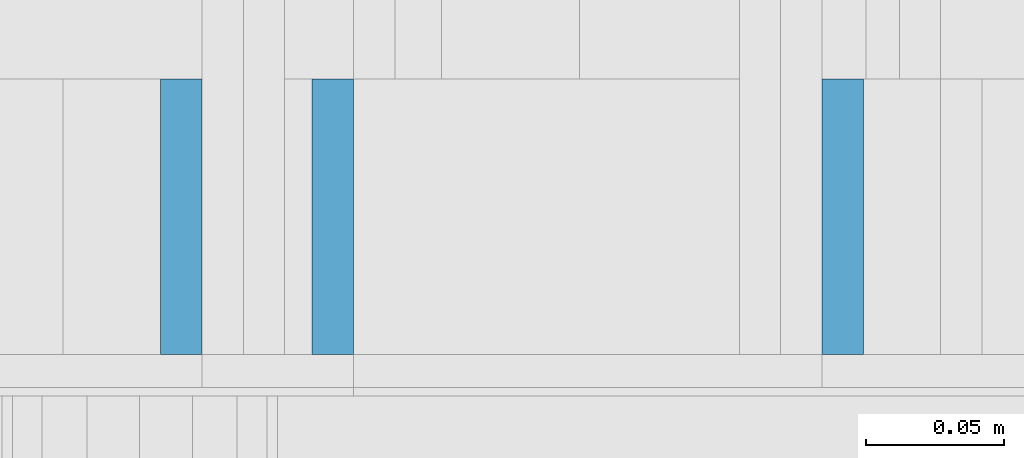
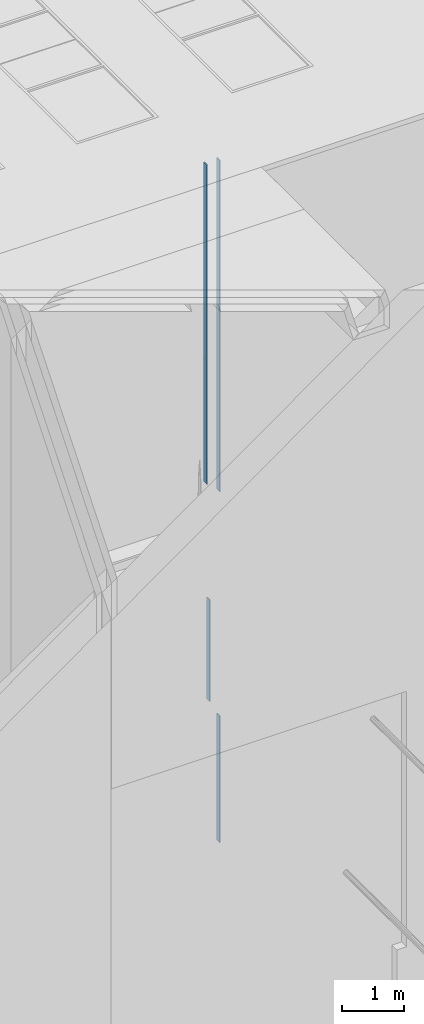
# One storey, part 46 of 583: 7 building element parts, 2 elements without a shape of their own.
"""IFC2X3 building model written with IfcOpenShell, lengths in metres."""

import ifcopenshell
import ifcopenshell.guid

model = None  # the IFC model being written
_history = None  # IfcOwnerHistory: only IFC2X3 demands one
_inside = {}  # id of a spatial element -> (the spatial element, [elements in it])
_under = {}  # id of a project, library or spatial element -> (it, [spatial elements below it])
_declared = {}  # id of a project -> (the project, [libraries it declares])
_typed = {}  # id of a type object -> (the type object, [elements of that type])
_made_of = {}  # id of a material, layer set ... -> (it, [elements and type objects made of it])


def new_model(schema):
    """Start an empty IFC model of exactly this schema.

    Asked for "IFC4X3", IfcOpenShell would pick the latest addendum, in which some entities
    have other attributes; the version numbers below select the first issue.
    IFC2X3 requires an IfcOwnerHistory on every rooted entity: one is made here for all.
    """
    global model, _history
    if schema == "IFC4X3":
        model = ifcopenshell.file(schema_version=(4, 3, 0, 0))
    else:
        model = ifcopenshell.file(schema=schema)
    _inside.clear()
    _under.clear()
    _declared.clear()
    _typed.clear()
    _made_of.clear()
    _history = None
    if model.schema == "IFC2X3":
        org = make("IfcOrganization", Name="unknown")
        user = make(
            "IfcPersonAndOrganization",
            ThePerson=make("IfcPerson", FamilyName="unknown"),
            TheOrganization=org,
        )
        app = make(
            "IfcApplication",
            ApplicationDeveloper=org,
            Version="unknown",
            ApplicationFullName="unknown",
            ApplicationIdentifier="unknown",
        )
        _history = make(
            "IfcOwnerHistory",
            OwningUser=user,
            OwningApplication=app,
            ChangeAction="ADDED",
            CreationDate=0,
        )
    return model


def make(cls, **values):
    """One entity of the class cls with the attributes given. An attribute that is None is left unset."""
    return model.create_entity(
        cls, **{name: value for name, value in values.items() if value is not None}
    )


def entity(cls, *values):
    """Any entity or typed value of the class cls, its attributes in the order of the schema. None: left unset."""
    e = model.create_entity(cls)
    for i, value in enumerate(values):
        if value is not None:
            e[i] = value
    return e


def rooted(cls, **values):
    """An entity with a GlobalId (a new one), such as an element, a storey or a relation."""
    return make(cls, GlobalId=ifcopenshell.guid.new(), OwnerHistory=_history, **values)


def si_unit(unit_type, name, prefix=None):
    """IfcSIUnit, for example si_unit("LENGTHUNIT", "METRE", prefix="MILLI")."""
    return make("IfcSIUnit", UnitType=unit_type, Prefix=prefix, Name=name)


def converted_unit(unit_type, name, factor, base, dimensions=None, offset=None):
    """IfcConversionBasedUnit, such as the inch: factor (a typed value) times the base unit."""
    return make(
        "IfcConversionBasedUnit"
        if offset is None
        else "IfcConversionBasedUnitWithOffset",
        ConversionOffset=offset,
        Dimensions=None
        if dimensions is None
        else entity("IfcDimensionalExponents", *dimensions),
        UnitType=unit_type,
        Name=name,
        ConversionFactor=make(
            "IfcMeasureWithUnit", ValueComponent=factor, UnitComponent=base
        ),
    )


def derived_unit(unit_type, elements):
    """IfcDerivedUnit: a product of units, each with its exponent."""
    return make(
        "IfcDerivedUnit",
        Elements=[
            make("IfcDerivedUnitElement", Unit=unit, Exponent=power)
            for unit, power in elements
        ],
        UnitType=unit_type,
    )


def money_unit(currency):
    """IfcMonetaryUnit."""
    return make("IfcMonetaryUnit", Currency=currency)


def assignment(units):
    """IfcUnitAssignment: the units of a project."""
    return None if units is None else make("IfcUnitAssignment", Units=units)


def point(xyz):
    """IfcCartesianPoint."""
    return None if xyz is None else make("IfcCartesianPoint", Coordinates=xyz)


def direction(xyz):
    """IfcDirection."""
    return None if xyz is None else make("IfcDirection", DirectionRatios=xyz)


def frame(location, z_axis=None, x_axis=None):
    """IfcAxis2Placement3D, a coordinate frame: its origin and axes. An axis left out is left unset."""
    return make(
        "IfcAxis2Placement3D",
        Location=point(location),
        Axis=direction(z_axis),
        RefDirection=direction(x_axis),
    )


def frame_2d(location, x_axis=None):
    """IfcAxis2Placement2D, a coordinate frame in the plane: its origin and x axis."""
    return make(
        "IfcAxis2Placement2D", Location=point(location), RefDirection=direction(x_axis)
    )


def origin_with_axes():
    """The frame at (0, 0, 0) with the z axis (0, 0, 1) and the x axis (1, 0, 0) written out."""
    return frame((0.0, 0.0, 0.0), z_axis=(0.0, 0.0, 1.0), x_axis=(1.0, 0.0, 0.0))


def place(relative_to, where):
    """IfcLocalPlacement: puts the frame where relative to a parent placement (None: the world)."""
    return make(
        "IfcLocalPlacement", PlacementRelTo=relative_to, RelativePlacement=where
    )


def context(
    kind, dimensions, precision=None, world=None, true_north=None, identifier=None
):
    """IfcGeometricRepresentationContext, for example the 3D "Model" context."""
    return make(
        "IfcGeometricRepresentationContext",
        ContextIdentifier=identifier,
        ContextType=kind,
        CoordinateSpaceDimension=dimensions,
        Precision=precision,
        WorldCoordinateSystem=world,
        TrueNorth=true_north,
    )


def subcontext(parent, identifier, kind, view, scale=None):
    """IfcGeometricRepresentationSubContext, for example "Body" below "Model"."""
    return make(
        "IfcGeometricRepresentationSubContext",
        ContextIdentifier=identifier,
        ContextType=kind,
        ParentContext=parent,
        TargetScale=scale,
        TargetView=view,
    )


def project(units=None, contexts=None):
    """IfcProject with its units and contexts."""
    return rooted(
        "IfcProject",
        Name="project",
        RepresentationContexts=contexts,
        UnitsInContext=assignment(units),
    )


def spatial(cls, under=None, at=None, **own):
    """A site, building, storey or space (cls), placed at a placement, below another one or the project."""
    s = rooted(cls, ObjectPlacement=at, **own)
    if under is not None:
        _under.setdefault(under.id(), (under, []))[1].append(s)
    return s


def polyline(points):
    """IfcPolyline through the points."""
    return make("IfcPolyline", Points=[point(p) for p in points])


def profile(cls, at=None, kind="AREA", **sizes):
    """A parametric profile (cls). Its sizes go by their IFC names, for example OverallWidth=200.0."""
    return make(cls, ProfileType=kind, Position=at, **sizes)


def rectangle(**sizes):
    """IfcRectangleProfileDef."""
    return profile("IfcRectangleProfileDef", **sizes)


def outline(outer, holes=None, kind="AREA"):
    """IfcArbitraryClosedProfileDef: a profile drawn as a closed curve; with holes, ...WithVoids."""
    if holes is None:
        return make("IfcArbitraryClosedProfileDef", ProfileType=kind, OuterCurve=outer)
    return make(
        "IfcArbitraryProfileDefWithVoids",
        ProfileType=kind,
        OuterCurve=outer,
        InnerCurves=holes,
    )


def extrude(swept, where, along, depth):
    """IfcExtrudedAreaSolid: the profile swept, set in the frame where, extruded along a direction by depth."""
    return make(
        "IfcExtrudedAreaSolid",
        SweptArea=swept,
        Position=where,
        ExtrudedDirection=direction(along),
        Depth=depth,
    )


def shape(context_of_items, identifier, shape_type, items):
    """IfcShapeRepresentation: the items that make up one representation, for example the "Body"."""
    return make(
        "IfcShapeRepresentation",
        ContextOfItems=context_of_items,
        RepresentationIdentifier=identifier,
        RepresentationType=shape_type,
        Items=items,
    )


def material(Name=None, Category=None):
    """IfcMaterial."""
    return make("IfcMaterial", Name=Name, Category=Category)


def made_of(thing, what):
    """Note that an element or type object is made of a material, layer set ...; save() writes the relation."""
    if what is not None:
        _made_of.setdefault(what.id(), (what, []))[1].append(thing)
    return thing


def type_object(cls, material=None, **own):
    """A type object (cls), such as IfcWallType, which elements share."""
    return made_of(rooted(cls, **own), material)


def element(
    cls,
    number,
    at=None,
    inside=None,
    cuts=None,
    type_object=None,
    material=None,
    context=None,
    identifier="Body",
    shape_type=None,
    held_by="IfcProductDefinitionShape",
    body=None,
    shapes=None,
    **own,
):
    """One element of the class cls, such as IfcWall. Its Tag is "e" and its number.

    at: its placement. inside: the storey or other place that contains it. cuts: it is an
    opening in that element (IfcRelVoidsElement). A single representation is given by context,
    identifier, shape_type and body (its items); several are given by shapes. held_by: the class
    of the entity that holds the representations. save() writes the other relations.
    """
    e = rooted(cls, Tag="e%d" % number, ObjectPlacement=at, **own)
    if body is not None:
        shapes = [shape(context, identifier, shape_type, body)]
    if shapes is not None:
        e.Representation = make(held_by, Representations=shapes)
    if inside is not None:
        _inside.setdefault(inside.id(), (inside, []))[1].append(e)
    if cuts is not None:
        rooted(
            "IfcRelVoidsElement", RelatingBuildingElement=cuts, RelatedOpeningElement=e
        )
    if type_object is not None:
        _typed.setdefault(type_object.id(), (type_object, []))[1].append(e)
    return made_of(e, material)


def aggregate(whole, parts):
    """IfcRelAggregates: a whole, such as a stair, and the parts it consists of."""
    return rooted("IfcRelAggregates", RelatingObject=whole, RelatedObjects=parts)


def save(model, path):
    """Write the relations noted so far, then the file.

    IfcRelAggregates (storeys below a building ...), IfcRelContainedInSpatialStructure (elements
    in a storey), IfcRelDefinesByType, IfcRelAssociatesMaterial and IfcRelDeclares: one each for
    every whole, place, type object, material and project.
    """
    for whole, parts in _under.values():
        aggregate(whole, parts)
    for where, things in _inside.values():
        rooted(
            "IfcRelContainedInSpatialStructure",
            RelatedElements=things,
            RelatingStructure=where,
        )
    for kind, things in _typed.values():
        rooted("IfcRelDefinesByType", RelatedObjects=things, RelatingType=kind)
    for what, things in _made_of.values():
        rooted("IfcRelAssociatesMaterial", RelatedObjects=things, RelatingMaterial=what)
    for by, libraries in _declared.values():
        rooted("IfcRelDeclares", RelatingContext=by, RelatedDefinitions=libraries)
    model.write(path)


model = new_model("IFC2X3")

# Units and contexts
model_context = context("Model", 3, precision=1e-05, world=origin_with_axes(), true_north=direction((0.0, 1.0)))
body_context = subcontext(model_context, "Body", "Model", "MODEL_VIEW", scale=1.0)
ifc_project = project(units=[si_unit("LENGTHUNIT", "METRE"), si_unit("AREAUNIT", "SQUARE_METRE"), si_unit("VOLUMEUNIT", "CUBIC_METRE"), si_unit("ABSORBEDDOSEUNIT", "GRAY"), si_unit("AMOUNTOFSUBSTANCEUNIT", "MOLE"), si_unit("DOSEEQUIVALENTUNIT", "SIEVERT"), si_unit("ELECTRICCAPACITANCEUNIT", "FARAD"), si_unit("ELECTRICCHARGEUNIT", "COULOMB"), si_unit("ELECTRICCONDUCTANCEUNIT", "SIEMENS"), si_unit("ELECTRICCURRENTUNIT", "AMPERE"), si_unit("ELECTRICRESISTANCEUNIT", "OHM"), si_unit("ELECTRICVOLTAGEUNIT", "VOLT"), si_unit("ENERGYUNIT", "JOULE"), si_unit("FORCEUNIT", "NEWTON"), si_unit("FREQUENCYUNIT", "HERTZ"), si_unit("ILLUMINANCEUNIT", "LUX"), si_unit("INDUCTANCEUNIT", "HENRY"), si_unit("LUMINOUSFLUXUNIT", "LUMEN"), si_unit("LUMINOUSINTENSITYUNIT", "CANDELA"), si_unit("MAGNETICFLUXDENSITYUNIT", "TESLA"), si_unit("MAGNETICFLUXUNIT", "WEBER"), si_unit("MASSUNIT", "GRAM"), converted_unit("PLANEANGLEUNIT", "degree", entity("IfcReal", 0.0174532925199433), si_unit("PLANEANGLEUNIT", "RADIAN"), dimensions=[0, 0, 0, 0, 0, 0, 0]), si_unit("POWERUNIT", "WATT"), si_unit("PRESSUREUNIT", "PASCAL"), si_unit("RADIOACTIVITYUNIT", "BECQUEREL"), si_unit("SOLIDANGLEUNIT", "STERADIAN"), si_unit("THERMODYNAMICTEMPERATUREUNIT", "KELVIN"), si_unit("TIMEUNIT", "SECOND"), derived_unit("ACCELERATIONUNIT", [(si_unit("LENGTHUNIT", "METRE"), 1), (si_unit("TIMEUNIT", "SECOND"), -2)]), derived_unit("ANGULARVELOCITYUNIT", [(converted_unit("PLANEANGLEUNIT", "degree", entity("IfcReal", 0.0174532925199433), si_unit("PLANEANGLEUNIT", "RADIAN"), dimensions=[0, 0, 0, 0, 0, 0, 0]), 1), (si_unit("TIMEUNIT", "SECOND"), -1)]), derived_unit("CURVATUREUNIT", [(converted_unit("PLANEANGLEUNIT", "degree", entity("IfcReal", 0.0174532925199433), si_unit("PLANEANGLEUNIT", "RADIAN"), dimensions=[0, 0, 0, 0, 0, 0, 0]), 1), (si_unit("LENGTHUNIT", "METRE"), -1)]), derived_unit("DYNAMICVISCOSITYUNIT", [(si_unit("PRESSUREUNIT", "PASCAL"), 1), (si_unit("TIMEUNIT", "SECOND"), 1)]), derived_unit("HEATFLUXDENSITYUNIT", [(si_unit("POWERUNIT", "WATT"), 1), (si_unit("LENGTHUNIT", "METRE"), -2)]), derived_unit("HEATINGVALUEUNIT", [(si_unit("ENERGYUNIT", "JOULE"), 1), (si_unit("MASSUNIT", "GRAM"), -1)]), derived_unit("INTEGERCOUNTRATEUNIT", [(si_unit("TIMEUNIT", "SECOND"), -1)]), derived_unit("IONCONCENTRATIONUNIT", [(si_unit("MASSUNIT", "GRAM"), 1), (si_unit("VOLUMEUNIT", "CUBIC_METRE"), -1)]), derived_unit("ISOTHERMALMOISTURECAPACITYUNIT", [(si_unit("VOLUMEUNIT", "CUBIC_METRE"), 1), (si_unit("MASSUNIT", "GRAM"), -1)]), derived_unit("KINEMATICVISCOSITYUNIT", [(si_unit("AREAUNIT", "SQUARE_METRE"), 1), (si_unit("TIMEUNIT", "SECOND"), -1)]), derived_unit("LINEARFORCEUNIT", [(si_unit("FORCEUNIT", "NEWTON"), 1), (si_unit("LENGTHUNIT", "METRE"), -1)]), derived_unit("LINEARMOMENTUNIT", [(si_unit("FORCEUNIT", "NEWTON"), 1), (si_unit("LENGTHUNIT", "METRE"), -1)]), derived_unit("LINEARSTIFFNESSUNIT", [(si_unit("FORCEUNIT", "NEWTON"), 1), (si_unit("LENGTHUNIT", "METRE"), -1)]), derived_unit("LINEARVELOCITYUNIT", [(si_unit("LENGTHUNIT", "METRE"), 1), (si_unit("TIMEUNIT", "SECOND"), -1)]), derived_unit("LUMINOUSINTENSITYDISTRIBUTIONUNIT", [(si_unit("LUMINOUSINTENSITYUNIT", "CANDELA"), 1), (si_unit("LUMINOUSFLUXUNIT", "LUMEN"), -1)]), derived_unit("MASSDENSITYUNIT", [(si_unit("MASSUNIT", "GRAM"), 1), (si_unit("VOLUMEUNIT", "CUBIC_METRE"), -1)]), derived_unit("MASSFLOWRATEUNIT", [(si_unit("MASSUNIT", "GRAM"), 1), (si_unit("TIMEUNIT", "SECOND"), -1)]), derived_unit("MASSPERLENGTHUNIT", [(si_unit("MASSUNIT", "GRAM"), 1), (si_unit("LENGTHUNIT", "METRE"), -1)]), derived_unit("MODULUSOFELASTICITYUNIT", [(si_unit("FORCEUNIT", "NEWTON"), 1), (si_unit("AREAUNIT", "SQUARE_METRE"), -1)]), derived_unit("MODULUSOFLINEARSUBGRADEREACTIONUNIT", [(si_unit("FORCEUNIT", "NEWTON"), 1), (si_unit("LENGTHUNIT", "METRE"), -2)]), derived_unit("MODULUSOFROTATIONALSUBGRADEREACTIONUNIT", [(si_unit("FORCEUNIT", "NEWTON"), 1), (si_unit("LENGTHUNIT", "METRE"), 1)]), derived_unit("MODULUSOFSUBGRADEREACTIONUNIT", [(si_unit("FORCEUNIT", "NEWTON"), 1), (si_unit("VOLUMEUNIT", "CUBIC_METRE"), -1)]), derived_unit("MOISTUREDIFFUSIVITYUNIT", [(si_unit("VOLUMEUNIT", "CUBIC_METRE"), 1), (si_unit("TIMEUNIT", "SECOND"), -1)]), derived_unit("MOLECULARWEIGHTUNIT", [(si_unit("MASSUNIT", "GRAM"), 1), (si_unit("AMOUNTOFSUBSTANCEUNIT", "MOLE"), -1)]), derived_unit("PLANARFORCEUNIT", [(si_unit("FORCEUNIT", "NEWTON"), 1), (si_unit("LENGTHUNIT", "METRE"), -2)]), derived_unit("ROTATIONALFREQUENCYUNIT", [(si_unit("TIMEUNIT", "SECOND"), -1)]), derived_unit("ROTATIONALMASSUNIT", [(si_unit("MASSUNIT", "GRAM"), 1), (si_unit("LENGTHUNIT", "METRE"), 2)]), derived_unit("ROTATIONALSTIFFNESSUNIT", [(si_unit("FORCEUNIT", "NEWTON"), 1), (si_unit("LENGTHUNIT", "METRE"), 1), (converted_unit("PLANEANGLEUNIT", "degree", entity("IfcReal", 0.0174532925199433), si_unit("PLANEANGLEUNIT", "RADIAN"), dimensions=[0, 0, 0, 0, 0, 0, 0]), -1)]), derived_unit("SECTIONAREAINTEGRALUNIT", [(si_unit("LENGTHUNIT", "METRE"), 5)]), derived_unit("SECTIONMODULUSUNIT", [(si_unit("LENGTHUNIT", "METRE"), 3)]), derived_unit("SHEARMODULUSUNIT", [(si_unit("FORCEUNIT", "NEWTON"), 1), (si_unit("AREAUNIT", "SQUARE_METRE"), -1)]), derived_unit("SOUNDPOWERUNIT", [(si_unit("ENERGYUNIT", "JOULE"), 1), (si_unit("TIMEUNIT", "SECOND"), -1)]), derived_unit("SPECIFICHEATCAPACITYUNIT", [(si_unit("FORCEUNIT", "NEWTON"), 1), (si_unit("MASSUNIT", "GRAM"), -1), (si_unit("THERMODYNAMICTEMPERATUREUNIT", "KELVIN"), -1)]), derived_unit("TEMPERATUREGRADIENTUNIT", [(si_unit("THERMODYNAMICTEMPERATUREUNIT", "KELVIN"), 1), (si_unit("LENGTHUNIT", "METRE"), -1)]), derived_unit("THERMALADMITTANCEUNIT", [(si_unit("POWERUNIT", "WATT"), 1), (si_unit("AREAUNIT", "SQUARE_METRE"), -1), (si_unit("THERMODYNAMICTEMPERATUREUNIT", "KELVIN"), -1)]), derived_unit("THERMALCONDUCTANCEUNIT", [(si_unit("POWERUNIT", "WATT"), 1), (si_unit("LENGTHUNIT", "METRE"), -1), (si_unit("THERMODYNAMICTEMPERATUREUNIT", "KELVIN"), -1)]), derived_unit("THERMALEXPANSIONCOEFFICIENTUNIT", [(si_unit("THERMODYNAMICTEMPERATUREUNIT", "KELVIN"), -1)]), derived_unit("THERMALRESISTANCEUNIT", [(si_unit("AREAUNIT", "SQUARE_METRE"), 1), (si_unit("POWERUNIT", "WATT"), -1)]), derived_unit("THERMALTRANSMITTANCEUNIT", [(si_unit("POWERUNIT", "WATT"), 1), (si_unit("AREAUNIT", "SQUARE_METRE"), -1), (si_unit("THERMODYNAMICTEMPERATUREUNIT", "KELVIN"), -1)]), derived_unit("TORQUEUNIT", [(si_unit("FORCEUNIT", "NEWTON"), 1), (si_unit("LENGTHUNIT", "METRE"), 1)]), derived_unit("VAPORPERMEABILITYUNIT", [(si_unit("MASSUNIT", "GRAM"), 1), (si_unit("TIMEUNIT", "SECOND"), -1)]), derived_unit("VOLUMETRICFLOWRATEUNIT", [(si_unit("VOLUMEUNIT", "CUBIC_METRE"), 1), (si_unit("TIMEUNIT", "SECOND"), -1)]), derived_unit("WARPINGCONSTANTUNIT", [(si_unit("LENGTHUNIT", "METRE"), 6)]), derived_unit("WARPINGMOMENTUNIT", [(si_unit("FORCEUNIT", "NEWTON"), 1), (si_unit("LENGTHUNIT", "METRE"), 2)]), money_unit("GBP")], contexts=[model_context])

# Site, building, storey
site_placement = place(None, origin_with_axes())
site = spatial("IfcSite", under=ifc_project, at=site_placement, Name="Site", CompositionType="ELEMENT")
building_placement = place(site_placement, origin_with_axes())
building = spatial("IfcBuilding", under=site, at=building_placement, Name="Building01", CompositionType="ELEMENT")
storey_placement = place(building_placement, frame((0.0, 0.0, 20.78), z_axis=(0.0, 0.0, 1.0), x_axis=(1.0, 0.0, 0.0)))
storey = spatial("IfcBuildingStorey", under=building, at=storey_placement, Name="RL", CompositionType="ELEMENT", Elevation=20.78)

# Wall, building element parts
wall_type_1 = type_object("IfcWallType", Name="SHE_A-Walls_Type01c_Partywall_225mm_twin_tall", PredefinedType="NOTDEFINED")
wall_1_placement = place(storey_placement, frame((8.732, 5.15, 5.664), z_axis=(0.0, 1.0, 0.0), x_axis=(0.0, 0.0, -1.0)))
wall_1 = element("IfcWall", 1, at=wall_1_placement, inside=storey, type_object=wall_type_1, Name="1C", ObjectType="SHE_A-Walls_Type01c_Partywall_225mm_twin_tall")
ifc_material = material(Name="A_BSUK_Walls_Timber")
placement_1 = place(wall_1_placement, origin_with_axes())
building_element_part_1 = element("IfcBuildingElementPart", 2, at=placement_1, material=ifc_material, Name="2", context=body_context, shape_type="SweptSolid", body=[
    extrude(outline(polyline([(6.306339, 0.152), (0.042, 0.152), (0.027, 0.137), (6.321339, 0.137), (6.306339, 0.152)])), frame((0.0, 0.0, 0.015), z_axis=(0.0, 0.0, 1.0), x_axis=(1.0, 0.0, 0.0)), (0.0, 0.0, 1.0), 0.1),
])
building_element_part_2 = element("IfcBuildingElementPart", 3, at=placement_1, material=ifc_material, Name="7", context=body_context, shape_type="SweptSolid", body=[
    extrude(outline(polyline([(6.546339, -0.088), (0.027, -0.088), (0.027, -0.103), (6.561339, -0.103), (6.546339, -0.088)])), frame((0.0, 0.0, 0.015), z_axis=(0.0, 0.0, 1.0), x_axis=(1.0, 0.0, 0.0)), (0.0, 0.0, 1.0), 0.1),
])
building_element_part_3 = element("IfcBuildingElementPart", 4, at=placement_1, material=ifc_material, Name="8", context=body_context, shape_type="SweptSolid", body=[
    extrude(outline(polyline([(6.306339, 0.152), (0.042, 0.152), (0.027, 0.137), (6.321339, 0.137), (6.306339, 0.152)])), frame((0.0, 0.0, 0.015), z_axis=(0.0, 0.0, 1.0), x_axis=(1.0, 0.0, 0.0)), (0.0, 0.0, 1.0), 0.1),
])
building_element_part_4 = element("IfcBuildingElementPart", 5, at=placement_1, material=ifc_material, Name="9", context=body_context, shape_type="SweptSolid", body=[
    extrude(outline(polyline([(3.872339, 0.152), (0.042, 0.152), (0.027, 0.137), (3.872339, 0.137), (3.872339, 0.152)])), frame((0.0, 0.0, 0.015), z_axis=(0.0, 0.0, 1.0), x_axis=(1.0, 0.0, 0.0)), (0.0, 0.0, 1.0), 0.1),
])
building_element_part_5 = element("IfcBuildingElementPart", 6, at=placement_1, material=ifc_material, Name="10", context=body_context, shape_type="SweptSolid", body=[
    extrude(outline(polyline([(6.321339, 0.152), (0.042, 0.152), (0.027, 0.137), (6.336339, 0.137), (6.321339, 0.152)])), frame((0.0, 0.0, 0.015), z_axis=(0.0, 0.0, 1.0), x_axis=(1.0, 0.0, 0.0)), (0.0, 0.0, 1.0), 0.1),
])
aggregate(wall_1, [building_element_part_1, building_element_part_2, building_element_part_3, building_element_part_4, building_element_part_5])

wall_type_2 = type_object("IfcWallType", Name="SHE_A-Walls_Type03a_BlockworkWall_170mm", PredefinedType="NOTDEFINED")
wall_2_placement = place(storey_placement, frame((8.805, 5.15, -2.795), z_axis=(0.0, 1.0, 0.0), x_axis=(0.0, 0.0, -1.0)))
wall_2 = element("IfcWall", 7, at=wall_2_placement, inside=storey, type_object=wall_type_2, Name="4B", ObjectType="SHE_A-Walls_Type03a_BlockworkWall_170mm")
placement_2 = place(wall_2_placement, origin_with_axes())
building_element_part_6 = element("IfcBuildingElementPart", 8, at=placement_2, material=ifc_material, Name="2", context=body_context, shape_type="SweptSolid", body=[
    extrude(rectangle(XDim=2.0, YDim=0.015, at=frame_2d((1.155, 0.1625), x_axis=(-1.0, 0.0))), frame((0.0, 0.0, 0.015), z_axis=(0.0, 0.0, 1.0), x_axis=(1.0, 0.0, 0.0)), (0.0, 0.0, 1.0), 0.1),
])
building_element_part_7 = element("IfcBuildingElementPart", 9, at=placement_2, material=ifc_material, Name="8", context=body_context, shape_type="SweptSolid", body=[
    extrude(rectangle(XDim=2.494547, YDim=0.015, at=frame_2d((3.749142, -0.0225), x_axis=(-1.0, 0.0))), frame((0.0, 0.0, 0.015), z_axis=(0.0, 0.0, 1.0), x_axis=(1.0, 0.0, 0.0)), (0.0, 0.0, 1.0), 0.1),
])
aggregate(wall_2, [building_element_part_6, building_element_part_7])

save(model, "model.ifc")
